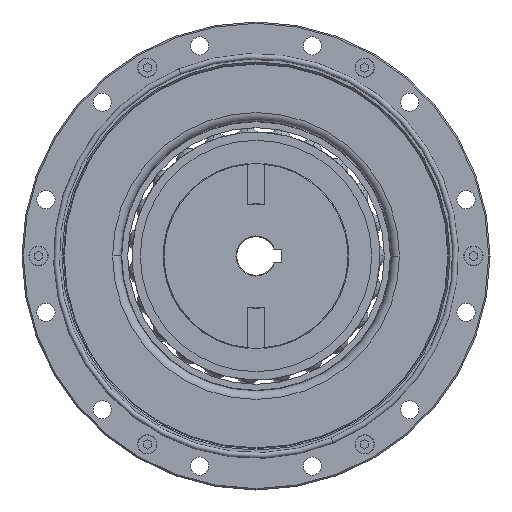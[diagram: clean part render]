
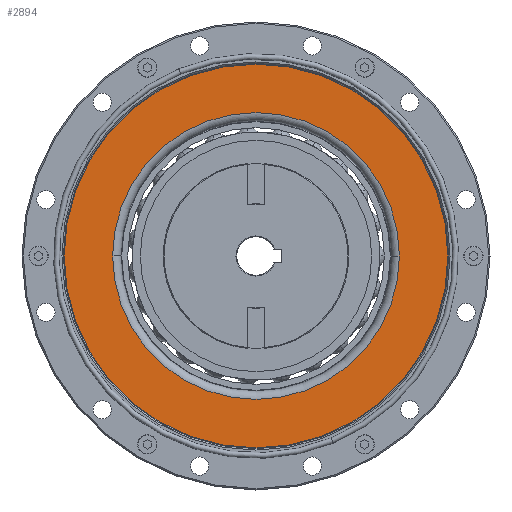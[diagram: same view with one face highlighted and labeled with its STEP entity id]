
A CAD part, left-side view. The second image highlights one B-rep face of the part: STEP entity #2894.
In plain terms, the highlighted planar face has unit normal (-1, 0, 0).
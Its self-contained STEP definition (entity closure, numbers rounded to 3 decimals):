
#79 = DIRECTION ( 'NONE',  ( -1., 0., 0. ) ) ;
#136 = FACE_BOUND ( 'NONE', #21495, .T. ) ;
#306 = DIRECTION ( 'NONE',  ( 0., 1., 0. ) ) ;
#447 = ORIENTED_EDGE ( 'NONE', *, *, #1992, .F. ) ;
#1496 = CARTESIAN_POINT ( 'NONE',  ( -20., 64.425, 0. ) ) ;
#1992 = EDGE_CURVE ( 'NONE', #23515, #13898, #2303, .T. ) ;
#2303 = CIRCLE ( 'NONE', #22705, 52.085 ) ;
#2759 = DIRECTION ( 'NONE',  ( 0., -1., 0. ) ) ;
#2894 = ADVANCED_FACE ( 'NONE', ( #24254, #136 ), #22113, .F. ) ;
#3659 = EDGE_CURVE ( 'NONE', #13898, #23515, #5876, .T. ) ;
#3679 = CARTESIAN_POINT ( 'NONE',  ( -20., -39.745, 0. ) ) ;
#3939 = AXIS2_PLACEMENT_3D ( 'NONE', #16058, #79, #306 ) ;
#5609 = CIRCLE ( 'NONE', #20443, 69.7 ) ;
#5764 = EDGE_CURVE ( 'NONE', #15766, #18508, #5609, .T. ) ;
#5867 = AXIS2_PLACEMENT_3D ( 'NONE', #24072, #22023, #2759 ) ;
#5876 = CIRCLE ( 'NONE', #3939, 52.085 ) ;
#5900 = CIRCLE ( 'NONE', #18363, 69.7 ) ;
#6583 = CARTESIAN_POINT ( 'NONE',  ( -20., 12.34, 0. ) ) ;
#6755 = EDGE_CURVE ( 'NONE', #18508, #15766, #5900, .T. ) ;
#7428 = DIRECTION ( 'NONE',  ( 0., -1., 0. ) ) ;
#7949 = DIRECTION ( 'NONE',  ( 0., 1., 0. ) ) ;
#8532 = DIRECTION ( 'NONE',  ( -1., 0., 0. ) ) ;
#9820 = DIRECTION ( 'NONE',  ( -1., 0., 0. ) ) ;
#11401 = DIRECTION ( 'NONE',  ( -1., 0., 0. ) ) ;
#13898 = VERTEX_POINT ( 'NONE', #1496 ) ;
#14234 = ORIENTED_EDGE ( 'NONE', *, *, #5764, .T. ) ;
#14431 = EDGE_LOOP ( 'NONE', ( #14234, #16522 ) ) ;
#15085 = CARTESIAN_POINT ( 'NONE',  ( -20., 82.04, 0. ) ) ;
#15766 = VERTEX_POINT ( 'NONE', #16176 ) ;
#16058 = CARTESIAN_POINT ( 'NONE',  ( -20., 12.34, 0. ) ) ;
#16176 = CARTESIAN_POINT ( 'NONE',  ( -20., -57.36, 0. ) ) ;
#16522 = ORIENTED_EDGE ( 'NONE', *, *, #6755, .T. ) ;
#18121 = ORIENTED_EDGE ( 'NONE', *, *, #3659, .F. ) ;
#18363 = AXIS2_PLACEMENT_3D ( 'NONE', #21492, #9820, #23450 ) ;
#18508 = VERTEX_POINT ( 'NONE', #15085 ) ;
#19153 = CARTESIAN_POINT ( 'NONE',  ( -20., 12.34, 0. ) ) ;
#20443 = AXIS2_PLACEMENT_3D ( 'NONE', #19153, #11401, #7428 ) ;
#21492 = CARTESIAN_POINT ( 'NONE',  ( -20., 12.34, 0. ) ) ;
#21495 = EDGE_LOOP ( 'NONE', ( #18121, #447 ) ) ;
#22023 = DIRECTION ( 'NONE',  ( 1., 0., 0. ) ) ;
#22113 = PLANE ( 'NONE',  #5867 ) ;
#22705 = AXIS2_PLACEMENT_3D ( 'NONE', #6583, #8532, #7949 ) ;
#23450 = DIRECTION ( 'NONE',  ( 0., -1., 0. ) ) ;
#23515 = VERTEX_POINT ( 'NONE', #3679 ) ;
#24072 = CARTESIAN_POINT ( 'NONE',  ( -20., 12.34, -52.085 ) ) ;
#24254 = FACE_OUTER_BOUND ( 'NONE', #14431, .T. ) ;
